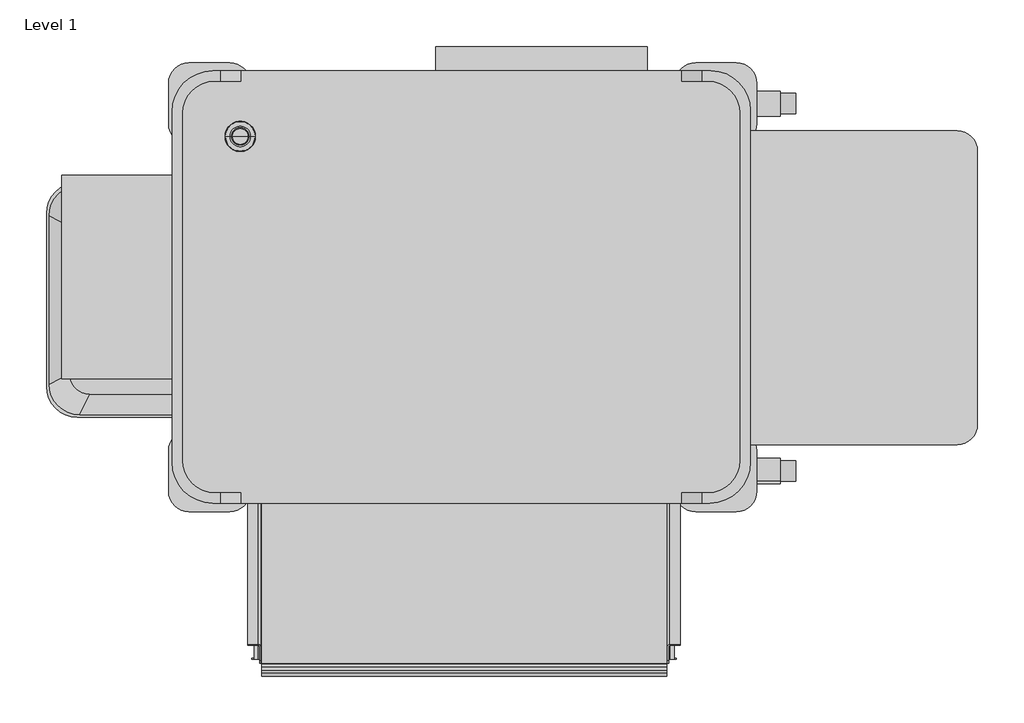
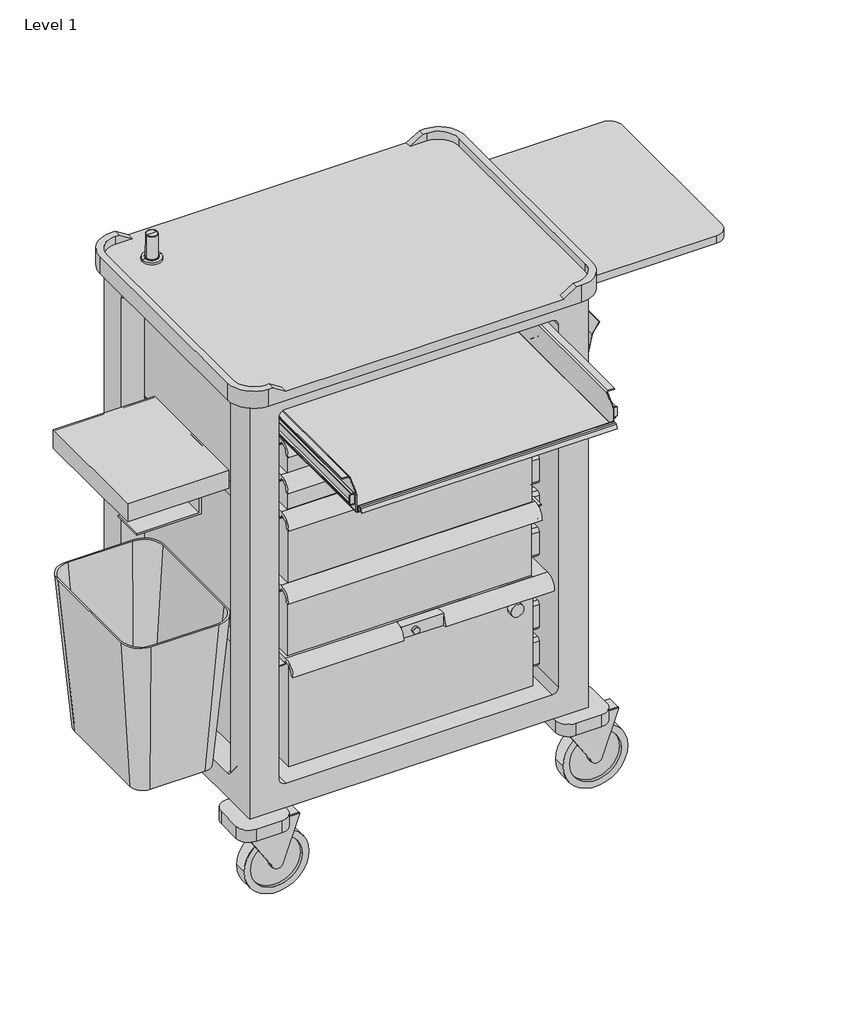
# One storey: 13 furniture elements.
"""IFC4 building model written with IfcOpenShell, lengths in millimetres."""

from ifc_helpers import new_model, si_unit, origin, place, context, project, spatial, transform, mapped, element, save
from components import furniture_c484342d, furniture_b57faadb, furniture_54a6ac53, furniture_b3912cd8, furniture_30e953a3, furniture_ef9dce1d, furniture_92bb6587, furniture_5e9628dd, furniture_63bd0a72, furniture_ec4840a1, furniture_abe30ba1, furniture_20_series_w_slide_out_shelf_keyboard_shelf_ee3652f7, furniture_20_series_w_slide_out_shelf_keyboard_shelf_b82dab68, furniture_20_series_w_slide_out_shelf_keyboard_shelf_f1be6787, furniture_20_series_w_slide_out_shelf_keyboard_shelf_e83bb7af, chart_holder_d666e0df

model = new_model("IFC4")

# Units and contexts
model_context = context("Model", 3, world=origin())
ifc_project = project(units=[si_unit("LENGTHUNIT", "METRE", prefix="MILLI")], contexts=[model_context])

# Site, building, storey
site = spatial("IfcSite", under=ifc_project)
building = spatial("IfcBuilding", under=site)
storey = spatial("IfcBuildingStorey", under=building, Name="Level 1", Elevation=0.0)

# Furniture
placement = place(None, origin())
furniture_shape = furniture_c484342d(model_context)
element("IfcFurniture", 1, ObjectType="HermanMiller_Carts_CT501_Drawer : 3\"H x 15\"D x 20\"W", at=placement, inside=storey, context=model_context, shape_type="MappedRepresentation", body=[
    mapped(furniture_shape, transform((351.9456734, -317.0550249, -76.2), x_axis=(1.0, 0.0, 0.0), y_axis=(0.0, 1.0, 0.0), z_axis=(0.0, 0.0, 1.0))),
])
furniture_2_shape = furniture_b57faadb(model_context)
element("IfcFurniture", 2, ObjectType="HermanMiller_Carts_CT501_Drawer : 3\"H x 15\"D x 20\"W", at=placement, inside=storey, context=model_context, shape_type="MappedRepresentation", body=[
    mapped(furniture_2_shape, transform((351.9456734, -317.0550249, -76.2), x_axis=(1.0, 0.0, 0.0), y_axis=(0.0, 1.0, 0.0), z_axis=(0.0, 0.0, 1.0))),
])
furniture_3_shape = furniture_54a6ac53(model_context)
element("IfcFurniture", 3, ObjectType="HermanMiller_Carts_CT501_Drawer : 6\"H x 15\"D x 20\"W", at=placement, inside=storey, context=model_context, shape_type="MappedRepresentation", body=[
    mapped(furniture_3_shape, transform((352.9544616, -317.0550249, -77.9597609), x_axis=(1.0, 0.0, 0.0), y_axis=(0.0, 1.0, 0.0), z_axis=(0.0, 0.0, 1.0))),
])
furniture_4_shape = furniture_b3912cd8(model_context)
element("IfcFurniture", 4, ObjectType="HermanMiller_Carts_CT501_Drawer : 6\"H x 15\"D x 20\"W", at=placement, inside=storey, context=model_context, shape_type="MappedRepresentation", body=[
    mapped(furniture_4_shape, transform((352.1473712, -317.0550249, -78.1454346), x_axis=(1.0, 0.0, 0.0), y_axis=(0.0, 1.0, 0.0), z_axis=(0.0, 0.0, 1.0))),
])
furniture_5_shape = furniture_30e953a3(model_context)
element("IfcFurniture", 5, ObjectType="HermanMiller_Carts_CT501_Drawer : 9\"H X 15\"D X 20\"W WITH STOP Key Diff", at=placement, inside=storey, context=model_context, shape_type="MappedRepresentation", body=[
    mapped(furniture_5_shape, transform((355.2747357, -317.0550249, 440.3663454), x_axis=(1.0, 0.0, 0.0), y_axis=(0.0, 1.0, 0.0), z_axis=(0.0, 0.0, 1.0))),
])
furniture_6_shape = furniture_ef9dce1d(model_context)
element("IfcFurniture", 6, ObjectType="HermanMiller_Carts_CT728_WastebasketAndHolder : 12H x 8D x 11W", at=placement, inside=storey, context=model_context, shape_type="MappedRepresentation", body=[
    mapped(furniture_6_shape, transform((-28.5709596, -439.0631634, -3.1813846), x_axis=(-1.0, 0.0, 0.0), y_axis=(0.0, -1.0, 0.0), z_axis=(0.0, 0.0, 1.0))),
])
furniture_7_shape = furniture_92bb6587(model_context)
element("IfcFurniture", 7, ObjectType="HermanMiller_Carts_CT734_SharpsContainerHolder : 9H x 3D", at=placement, inside=storey, context=model_context, shape_type="MappedRepresentation", body=[
    mapped(furniture_7_shape, transform((-33.0885129, -264.3500249, 0.0), x_axis=(1.0, 0.0, 0.0), y_axis=(0.0, 1.0, 0.0), z_axis=(0.0, 0.0, 1.0))),
])
furniture_8_shape = furniture_5e9628dd(model_context)
element("IfcFurniture", 8, ObjectType="HermanMiller_Carts_CT782_AccessoryRailSide : 15\"W Left Sect 2", at=placement, inside=storey, context=model_context, shape_type="MappedRepresentation", body=[
    mapped(furniture_8_shape, transform((73.6295871, -264.5405249, 0.0), x_axis=(1.0, 0.0, 0.0), y_axis=(0.0, 1.0, 0.0), z_axis=(0.0, 0.0, 1.0))),
])
furniture_9_shape = furniture_63bd0a72(model_context)
element("IfcFurniture", 9, ObjectType="HermanMiller_Carts_CT782_AccessoryRailSide : 15\"W Left Sect 4", at=placement, inside=storey, context=model_context, shape_type="MappedRepresentation", body=[
    mapped(furniture_9_shape, transform((73.6295871, -264.5405249, 0.0), x_axis=(1.0, 0.0, 0.0), y_axis=(0.0, 1.0, 0.0), z_axis=(0.0, 0.0, 1.0))),
])
furniture_10_shape = furniture_ec4840a1(model_context)
element("IfcFurniture", 10, ObjectType="HermanMiller_Carts_CT782_AccessoryRailSide : 15\"W Right Sect 4", at=placement, inside=storey, context=model_context, shape_type="MappedRepresentation", body=[
    mapped(furniture_10_shape, transform((668.0092748, -264.5405249, 0.0), x_axis=(1.0, 0.0, 0.0), y_axis=(0.0, 1.0, 0.0), z_axis=(0.0, 0.0, 1.0))),
])
furniture_11_shape = furniture_abe30ba1(model_context)
element("IfcFurniture", 11, ObjectType="HermanMiller_Carts_CT782_AccessoryRailSide : 15\"W Right Sect 5", at=placement, inside=storey, context=model_context, shape_type="MappedRepresentation", body=[
    mapped(furniture_11_shape, transform((667.1852455, -264.5405249, 0.0), x_axis=(1.0, 0.0, 0.0), y_axis=(0.0, 1.0, 0.0), z_axis=(0.0, 0.0, 1.0))),
])
furniture_20_series_w_slide_out_shelf_keyboard_shelf_shape = furniture_20_series_w_slide_out_shelf_keyboard_shelf_ee3652f7(model_context)
furniture_20_series_w_slide_out_shelf_keyboard_shelf_2_shape = furniture_20_series_w_slide_out_shelf_keyboard_shelf_b82dab68(model_context)
furniture_20_series_w_slide_out_shelf_keyboard_shelf_3_shape = furniture_20_series_w_slide_out_shelf_keyboard_shelf_f1be6787(model_context)
furniture_20_series_w_slide_out_shelf_keyboard_shelf_4_shape = furniture_20_series_w_slide_out_shelf_keyboard_shelf_e83bb7af(model_context)
element("IfcFurniture", 12, ObjectType="HermanMiller_Carts_CTT_StorageandTechnologyCart : 20 Series w/slide-out Shelf Keyboard Shelf", at=placement, inside=storey, context=model_context, shape_type="MappedRepresentation", body=[
    mapped(furniture_20_series_w_slide_out_shelf_keyboard_shelf_shape, transform((30.4788355, -538.9875249, 0.0), x_axis=(1.0, 0.0, 0.0), y_axis=(0.0, 1.0, 0.0), z_axis=(0.0, 0.0, 1.0))),
    mapped(furniture_20_series_w_slide_out_shelf_keyboard_shelf_2_shape, transform((30.4788355, -538.9875249, 0.0), x_axis=(1.0, 0.0, 0.0), y_axis=(0.0, 1.0, 0.0), z_axis=(0.0, 0.0, 1.0))),
    mapped(furniture_20_series_w_slide_out_shelf_keyboard_shelf_3_shape, transform((30.4788355, -538.9875249, 0.0), x_axis=(1.0, 0.0, 0.0), y_axis=(0.0, 1.0, 0.0), z_axis=(0.0, 0.0, 1.0))),
    mapped(furniture_20_series_w_slide_out_shelf_keyboard_shelf_4_shape, transform((30.4788355, -538.9875249, 0.0), x_axis=(1.0, 0.0, 0.0), y_axis=(0.0, 1.0, 0.0), z_axis=(0.0, 0.0, 1.0))),
])
chart_holder_shape = chart_holder_d666e0df(model_context)
element("IfcFurniture", 13, ObjectType="HermanMiller_Carts_CT730_ChartHolder : Chart Holder", at=placement, inside=storey, context=model_context, shape_type="MappedRepresentation", body=[
    mapped(chart_holder_shape, transform((729.5817896, -265.8372893, 0.0), x_axis=(-1.0, 0.0, 0.0), y_axis=(0.0, -1.0, 0.0), z_axis=(0.0, 0.0, 1.0))),
])

save(model, "model.ifc")
